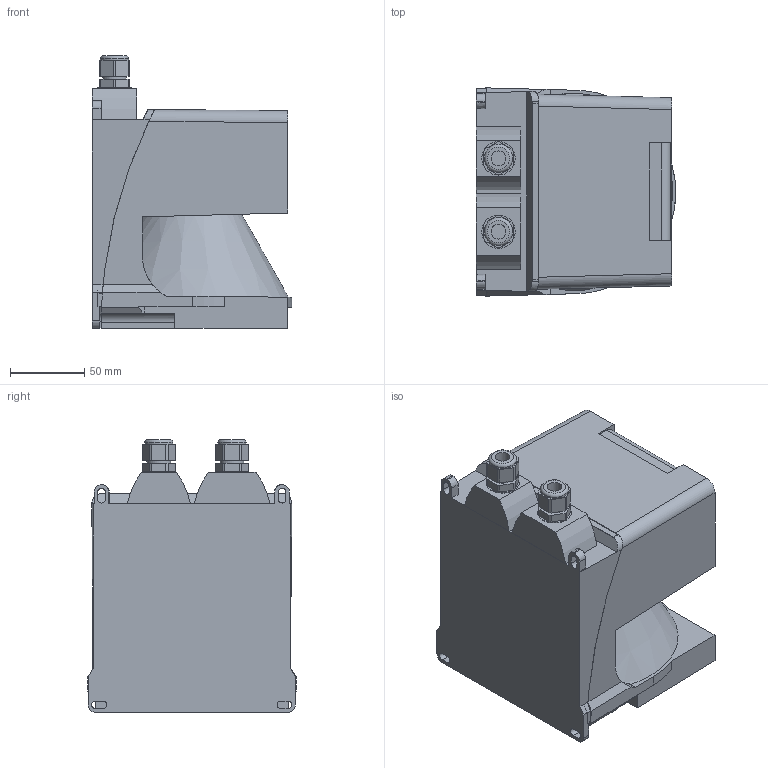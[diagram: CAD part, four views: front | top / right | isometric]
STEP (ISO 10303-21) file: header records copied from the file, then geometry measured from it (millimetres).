
FILE_DESCRIPTION((''),'2;1');
FILE_NAME('M:\INVENTORjob\Konstruktion\RS4\3d Modelle RS4\RS4 mit Stecker.stp','2012-02-09T13:27:35',('atull'),(''),'Autodesk Inventor 2009','Autodesk Inventor 2009','');
FILE_SCHEMA(('AUTOMOTIVE_DESIGN { 1 0 10303 214 1 1 1 1 }'));
Length unit declared in the file: millimetre
Products named in the file (6): RS4 mit Stecker; PART1; ~FRONTSCHEIBE; Stecker RS4; M16_Verschraubung
Assembly tree (6 placements, depth 3):
  RS4 mit Stecker
    PART1
    ~FRONTSCHEIBE
    Stecker RS4
      M16_Verschraubung  x2
      Stecker RS4
Bounding box: 134.73 x 140.64 x 184.15 mm (x, y, z)
Volume: 1247750.5 mm3; surface area: 267911.5 mm2
Topology: 7 solids, 7 shells, 286 faces, 754 edges, 501 vertices
Faces by surface type: plane 217, cylinder 64, cone 3, torus 2
Full cylindrical faces by diameter (mm): 4.2 x1, 7.5 x2, 10 x5, 16 x4, 19 x2, 22.5 x2
Entity records: 8277 total; most frequent: CARTESIAN_POINT 1842, ORIENTED_EDGE 1302, DIRECTION 1282, EDGE_CURVE 651, VECTOR 482, LINE 482, VERTEX_POINT 440, AXIS2_PLACEMENT_3D 400
